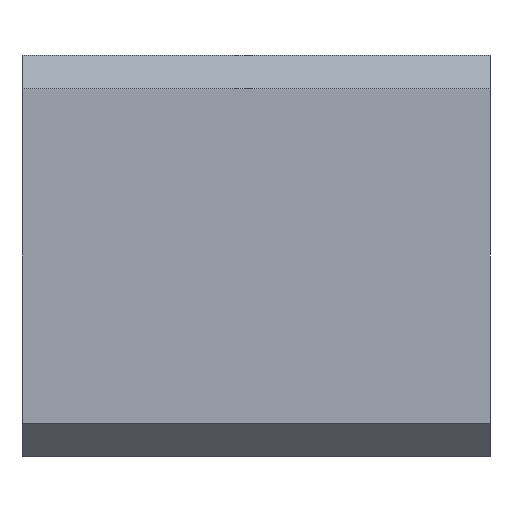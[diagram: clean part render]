
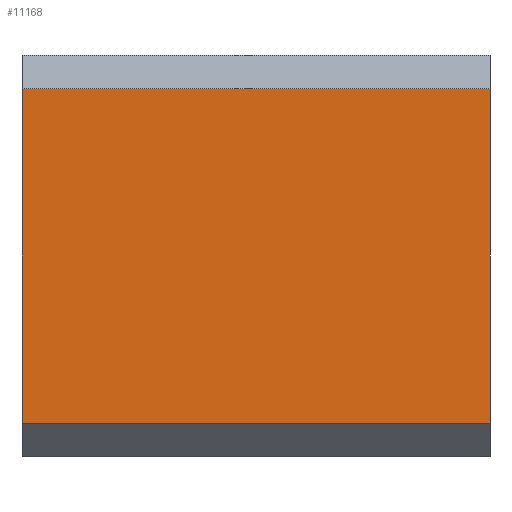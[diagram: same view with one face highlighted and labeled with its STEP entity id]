
A CAD part, front view. The second image highlights one B-rep face of the part: STEP entity #11168.
In plain terms, the highlighted planar face has unit normal (0, -1, 0).
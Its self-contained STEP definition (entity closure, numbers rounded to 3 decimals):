
#247 = FACE_OUTER_BOUND ( 'NONE', #7698, .T. ) ;
#249 = VERTEX_POINT ( 'NONE', #9291 ) ;
#1276 = ORIENTED_EDGE ( 'NONE', *, *, #4163, .T. ) ;
#1309 = AXIS2_PLACEMENT_3D ( 'NONE', #1426, #6092, #9770 ) ;
#1337 = DIRECTION ( 'NONE',  ( 0., 0., -1. ) ) ;
#1426 = CARTESIAN_POINT ( 'NONE',  ( -4.288, -5.619, -8.82 ) ) ;
#1472 = VECTOR ( 'NONE', #6298, 1000. ) ;
#1685 = VERTEX_POINT ( 'NONE', #3846 ) ;
#2115 = ORIENTED_EDGE ( 'NONE', *, *, #2335, .T. ) ;
#2335 = EDGE_CURVE ( 'NONE', #2336, #6169, #5231, .T. ) ;
#2336 = VERTEX_POINT ( 'NONE', #9730 ) ;
#3025 = EDGE_CURVE ( 'NONE', #1685, #6169, #8214, .T. ) ;
#3340 = VECTOR ( 'NONE', #8805, 1000. ) ;
#3843 = ORIENTED_EDGE ( 'NONE', *, *, #3025, .F. ) ;
#3846 = CARTESIAN_POINT ( 'NONE',  ( -4.288, -5.619, 1.18 ) ) ;
#4163 = EDGE_CURVE ( 'NONE', #1685, #249, #7810, .T. ) ;
#4196 = CARTESIAN_POINT ( 'NONE',  ( 9.712, -5.619, -3.82 ) ) ;
#4830 = CARTESIAN_POINT ( 'NONE',  ( 2.712, -5.619, -8.82 ) ) ;
#5231 = LINE ( 'NONE', #4196, #3340 ) ;
#6048 = PLANE ( 'NONE',  #1309 ) ;
#6092 = DIRECTION ( 'NONE',  ( 0., 1., 0. ) ) ;
#6169 = VERTEX_POINT ( 'NONE', #9840 ) ;
#6298 = DIRECTION ( 'NONE',  ( 1., 0., 0. ) ) ;
#7489 = DIRECTION ( 'NONE',  ( -1., 0., 0. ) ) ;
#7698 = EDGE_LOOP ( 'NONE', ( #11294, #2115, #3843, #1276 ) ) ;
#7810 = LINE ( 'NONE', #10400, #11263 ) ;
#8078 = LINE ( 'NONE', #4830, #11096 ) ;
#8214 = LINE ( 'NONE', #11794, #1472 ) ;
#8805 = DIRECTION ( 'NONE',  ( 0., 0., 1. ) ) ;
#9291 = CARTESIAN_POINT ( 'NONE',  ( -4.288, -5.619, -8.82 ) ) ;
#9730 = CARTESIAN_POINT ( 'NONE',  ( 9.712, -5.619, -8.82 ) ) ;
#9770 = DIRECTION ( 'NONE',  ( 0., 0., 1. ) ) ;
#9840 = CARTESIAN_POINT ( 'NONE',  ( 9.712, -5.619, 1.18 ) ) ;
#10400 = CARTESIAN_POINT ( 'NONE',  ( -4.288, -5.619, -3.82 ) ) ;
#11096 = VECTOR ( 'NONE', #7489, 1000. ) ;
#11168 = ADVANCED_FACE ( 'NONE', ( #247 ), #6048, .F. ) ;
#11263 = VECTOR ( 'NONE', #1337, 1000. ) ;
#11294 = ORIENTED_EDGE ( 'NONE', *, *, #11589, .F. ) ;
#11589 = EDGE_CURVE ( 'NONE', #2336, #249, #8078, .T. ) ;
#11794 = CARTESIAN_POINT ( 'NONE',  ( 2.712, -5.619, 1.18 ) ) ;
